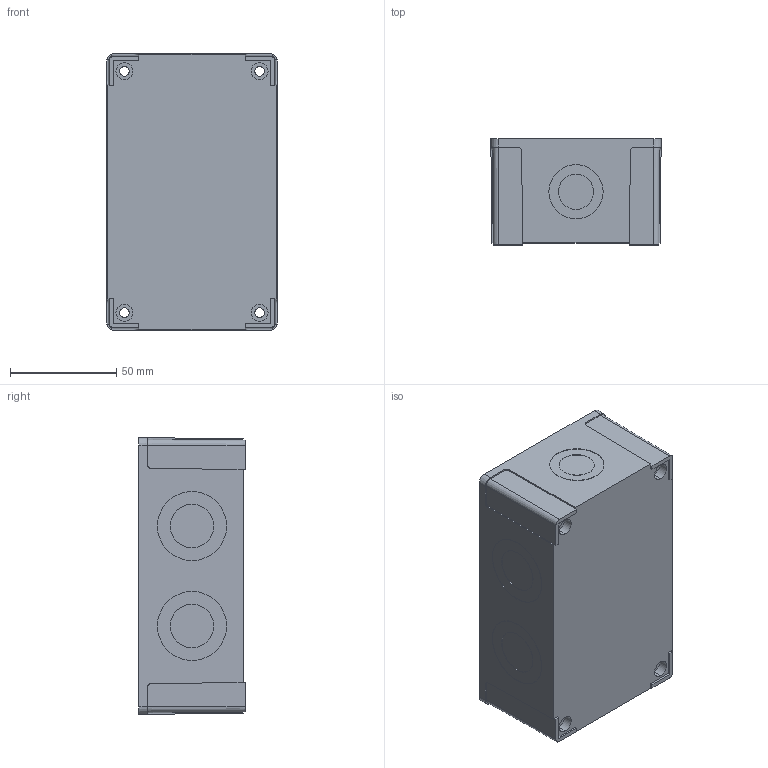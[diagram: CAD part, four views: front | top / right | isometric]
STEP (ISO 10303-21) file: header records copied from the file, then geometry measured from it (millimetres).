
FILE_DESCRIPTION (( 'STEP AP203' ), '1' );
FILE_NAME ('FIBOX_MNXPCM100B.STEP', '2005-06-30T06:38:44', ( ' ' ), ( ' ' ), 'SwSTEP 2.0', 'SolidWorks 2005143', '' );
FILE_SCHEMA (( 'CONFIG_CONTROL_DESIGN' ));
Length unit declared in the file: millimetre
Products named in the file (1): FIBOX_MNXPCM100B
Bounding box: 80.1 x 50 x 130.1 mm (x, y, z)
Volume: 125941.6 mm3; surface area: 66309.2 mm2
Topology: 1 solids, 1 shells, 326 faces, 789 edges, 526 vertices
Faces by surface type: plane 174, cylinder 132, cone 20
Entity records: 9766 total; most frequent: CARTESIAN_POINT 1786, DIRECTION 1707, ORIENTED_EDGE 1578, EDGE_CURVE 789, AXIS2_PLACEMENT_3D 623, VERTEX_POINT 526, VECTOR 461, LINE 461
